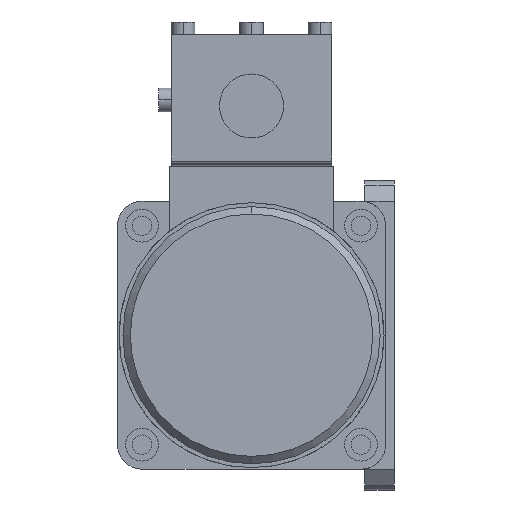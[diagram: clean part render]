
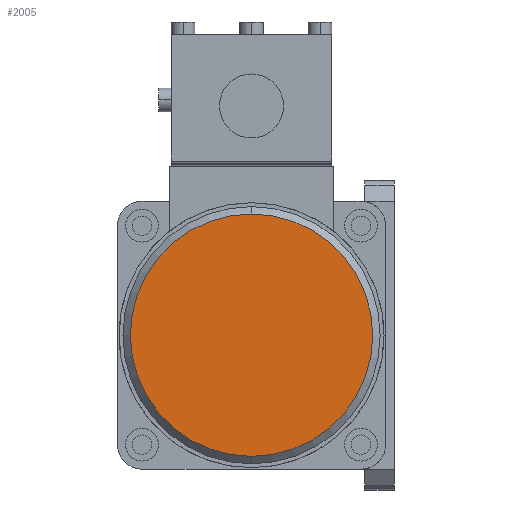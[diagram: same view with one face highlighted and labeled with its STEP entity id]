
A CAD part, left-side view. The second image highlights one B-rep face of the part: STEP entity #2005.
In plain terms, the highlighted planar face has unit normal (-1, 0, 0).
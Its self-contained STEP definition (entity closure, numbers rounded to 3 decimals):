
#1985=CARTESIAN_POINT('POINT121860',(-173.,48.,28.7));
#1986=VERTEX_POINT('VERTEX121860',#1985);
#1987=CARTESIAN_POINT('POINT121861',(-173.,48.,-52.7));
#1988=VERTEX_POINT('VERTEX121861',#1987);
#1989=CARTESIAN_POINT('POS205832',(-173.,48.,-12.));
#1990=DIRECTION('DIR310278',(1.,0.,0.));
#1991=DIRECTION('DIR310279',(0.,0.,1.));
#1992=AXIS2_PLACEMENT_3D('AXIS104447',#1989,#1990,#1991);
#1993=CIRCLE('ELLIPSE48723',#1992,40.7);
#1994=EDGE_CURVE('EDGE186045',#1986,#1988,#1993,.T.);
#1995=ORIENTED_EDGE('COEDGE372069',*,*,#1994,.F.);
#1996=EDGE_CURVE('EDGE186046',#1988,#1986,#1993,.T.);
#1997=ORIENTED_EDGE('COEDGE372070',*,*,#1996,.F.);
#1998=EDGE_LOOP('NONE',(#1995,#1997));
#1999=FACE_BOUND('LOOP1',#1998,.T.);
#2000=CARTESIAN_POINT('POS205833',(-173.,48.,
   8.35));
#2001=DIRECTION('DIR310280',(-1.,0.,0.));
#2002=DIRECTION('DIR310281',(0.,1.,0.));
#2003=AXIS2_PLACEMENT_3D('AXIS104448',#2000,#2001,#2002);
#2004=PLANE('PLANE33377',#2003);
#2005=ADVANCED_FACE('FACE76350',(#1999),#2004,.T.);
